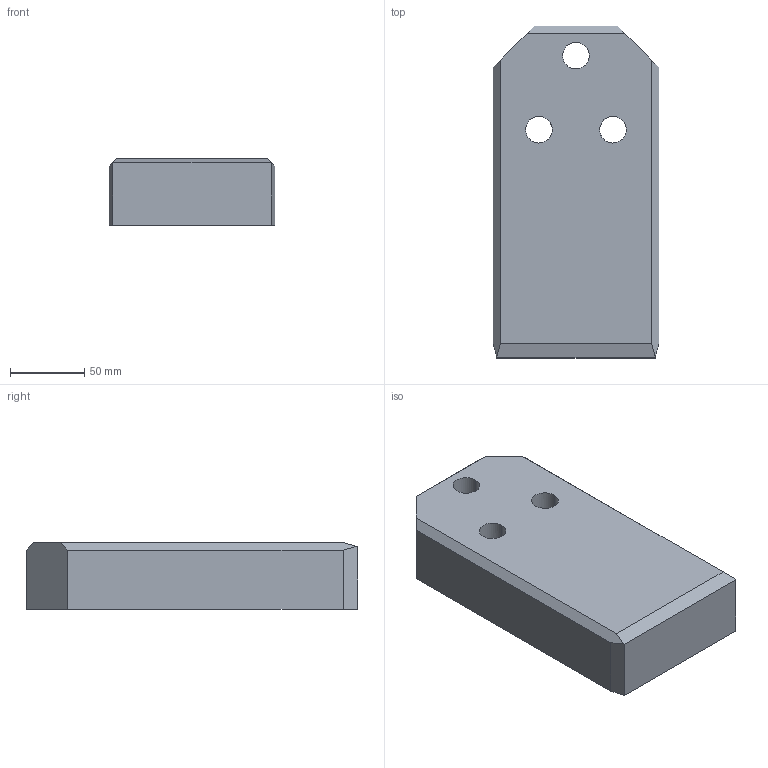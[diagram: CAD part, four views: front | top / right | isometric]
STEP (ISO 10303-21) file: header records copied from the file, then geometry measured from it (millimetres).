
FILE_DESCRIPTION(('CATIA V5 STEP Exchange'),'2;1');
FILE_NAME('C:\Users\borellobunino\Desktop\3D X SITO CF\A927\GSB_OILLESS_G2290511222445\STEP-2.03\A927-112X224X45.stp','2019-07-15T18:47:17+00:00',('none'),('none'),'CATIA Version 5 Release 20 GA (IN-10)','CATIA V5 STEP AP203','none');
FILE_SCHEMA(('CONFIG_CONTROL_DESIGN'));
Length unit declared in the file: millimetre
Products named in the file (1): A927-112X224X45
Bounding box: 112 x 224 x 45 mm (x, y, z)
Volume: 1033225 mm3; surface area: 82918.9 mm2
Topology: 1 solids, 1 shells, 35 faces, 84 edges, 54 vertices
Faces by surface type: plane 17, cylinder 12, cone 6
Entity records: 1296 total; most frequent: CARTESIAN_POINT 450, ORIENTED_EDGE 168, DIRECTION 142, EDGE_CURVE 84, AXIS2_PLACEMENT_3D 54, VECTOR 54, LINE 54, VERTEX_POINT 54
